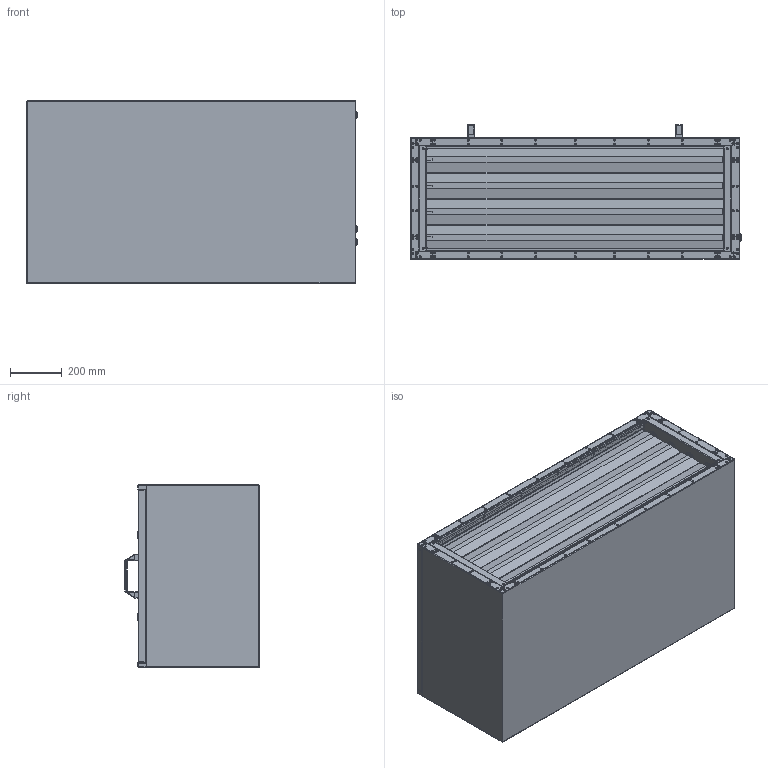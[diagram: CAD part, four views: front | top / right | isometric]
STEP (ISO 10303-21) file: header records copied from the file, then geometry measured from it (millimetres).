
FILE_DESCRIPTION (( 'STEP AP203' ), '1' );
FILE_NAME ('SL 12040 E1 10 10 Ruck_00125146.STEP', '2016-03-23T06:19:19', ( '' ), ( '' ), 'SwSTEP 2.0', 'SolidWorks 2012', '' );
FILE_SCHEMA (( 'CONFIG_CONTROL_DESIGN' ));
Length unit declared in the file: millimetre
Products named in the file (1): SL 12040 E1 10 10 Ruck_00125146
Bounding box: 1273.75 x 518.3 x 707.2 mm (x, y, z)
Surface area: 8141322.8 mm2 (no closed solid volume)
Topology: 0 solids, 270 shells, 1173 faces, 4972 edges, 3887 vertices
Faces by surface type: cylinder 465, torus 390, plane 258, cone 32, bspline 24, sphere 4
Entity records: 54836 total; most frequent: CARTESIAN_POINT 12502, DIRECTION 9871, ORIENTED_EDGE 6667, EDGE_CURVE 4972, AXIS2_PLACEMENT_3D 4110, VERTEX_POINT 3887, CIRCLE 2960, EDGE_LOOP 1779
